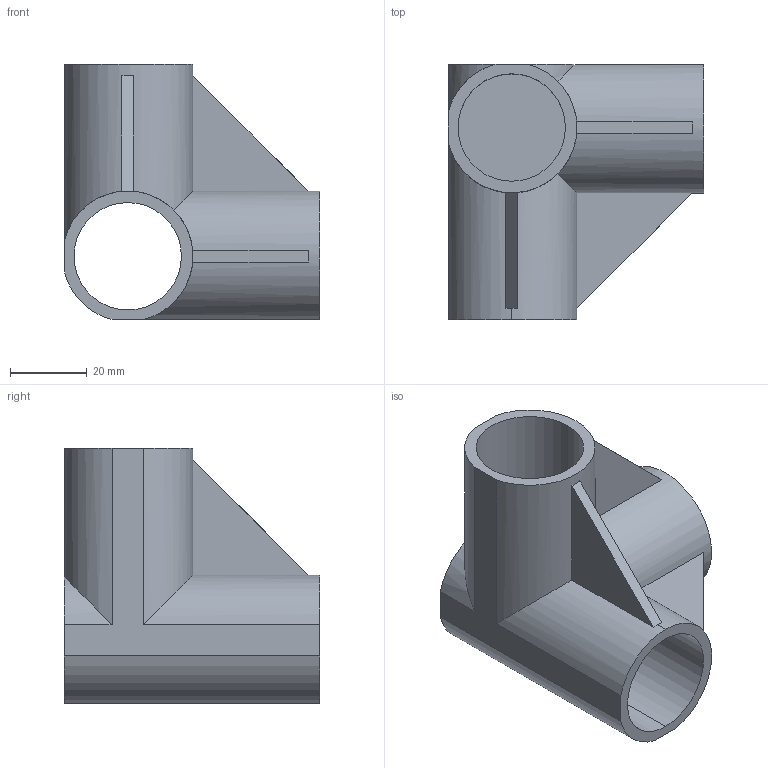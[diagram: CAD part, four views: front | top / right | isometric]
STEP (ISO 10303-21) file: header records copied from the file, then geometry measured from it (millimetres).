
FILE_DESCRIPTION (( 'STEP AP214' ), '1' );
FILE_NAME ('PJ-103.STEP', '2023-09-12T10:59:49', ( 'catia' ), ( 'HP Inc.' ), 'SwSTEP 2.0', 'SolidWorks 2021', '' );
FILE_SCHEMA (( 'AUTOMOTIVE_DESIGN' ));
Length unit declared in the file: millimetre
Products named in the file (1): PJ-103
Bounding box: 66.5 x 66.5 x 66.5 mm (x, y, z)
Volume: 49538.7 mm3; surface area: 29073.1 mm2
Topology: 1 solids, 1 shells, 34 faces, 90 edges, 60 vertices
Faces by surface type: cylinder 17, plane 17
Entity records: 1096 total; most frequent: CARTESIAN_POINT 239, ORIENTED_EDGE 180, DIRECTION 166, EDGE_CURVE 90, VERTEX_POINT 60, AXIS2_PLACEMENT_3D 59, VECTOR 48, LINE 48
